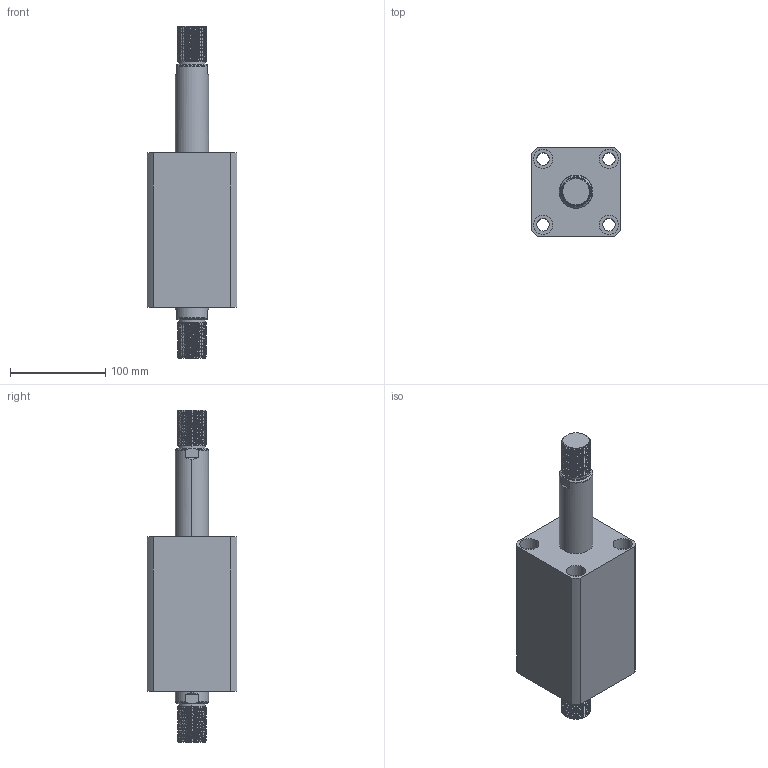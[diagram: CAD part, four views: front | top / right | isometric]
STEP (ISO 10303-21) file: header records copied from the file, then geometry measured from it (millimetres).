
FILE_DESCRIPTION (( 'STEP AP214' ), '1' );
FILE_NAME ('chtb-sw63x80w_asm.STEP', '2018-05-19T03:24:29', ( 'Windows' ), ( 'Microsoft' ), 'SwSTEP 2.0', 'SolidWorks 2015', '' );
FILE_SCHEMA (( 'AUTOMOTIVE_DESIGN' ));
Length unit declared in the file: millimetre
Products named in the file (4): CHTB-SW63X80WHSG; CHTB-SW63X80NBT; CHTB-63QG; chtb-sw63x80w_asm
Assembly tree (3 placements, depth 2):
  chtb-sw63x80w_asm
    CHTB-63QG
    CHTB-SW63X80NBT
    CHTB-SW63X80WHSG
Bounding box: 94 x 94 x 348 mm (x, y, z)
Volume: 1290253.6 mm3; surface area: 204036.1 mm2
Topology: 3 solids, 3 shells, 296 faces, 841 edges, 569 vertices
Faces by surface type: cylinder 206, plane 46, bspline 16, cone 16, torus 12
Entity records: 27380 total; most frequent: CARTESIAN_POINT 20442, ORIENTED_EDGE 1674, DIRECTION 1166, EDGE_CURVE 837, VERTEX_POINT 569, AXIS2_PLACEMENT_3D 453, EDGE_LOOP 334, FACE_OUTER_BOUND 296
